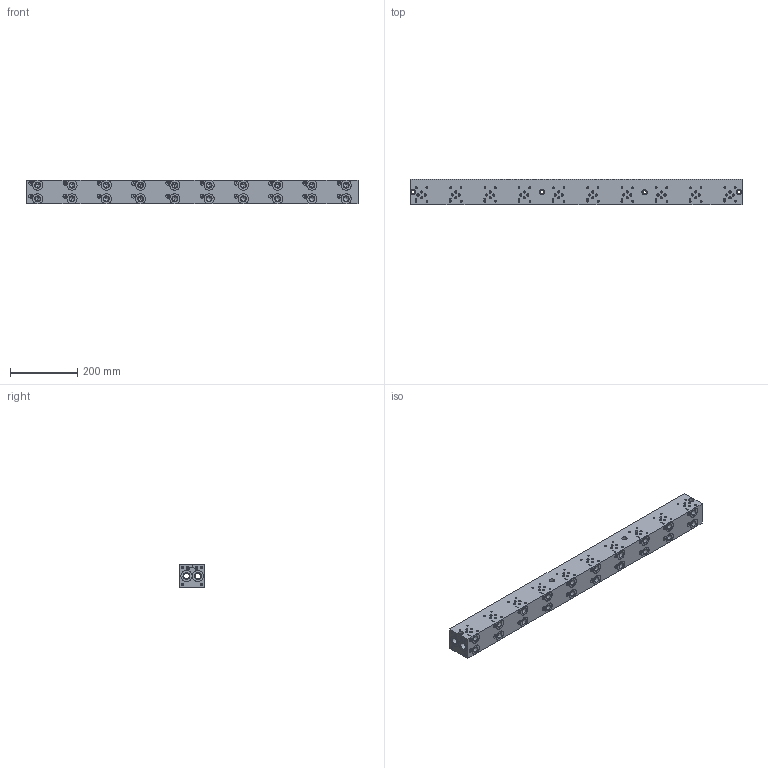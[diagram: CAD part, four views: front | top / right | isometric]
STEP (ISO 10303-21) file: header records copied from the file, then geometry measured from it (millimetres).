
FILE_DESCRIPTION (( 'STEP AP203' ), '1' );
FILE_NAME ('BM-ASP03S4-10-1_Z.STEP', '2015-01-06T15:45:11', ( '' ), ( '' ), 'SwSTEP 2.0', 'SolidWorks 2014', '' );
FILE_SCHEMA (( 'CONFIG_CONTROL_DESIGN' ));
Products named in the file (1): BM-ASP03S4-10-1_Z
Bounding box: 984.25 x 74.93 x 69.85 mm (x, y, z)
Volume: 4529535.6 mm3; surface area: 468406.4 mm2
Topology: 1 solids, 1 shells, 1248 faces, 3194 edges, 1956 vertices
Faces by surface type: cylinder 502, plane 418, cone 226, bspline 102
Entity records: 45139 total; most frequent: CARTESIAN_POINT 16005, ORIENTED_EDGE 5996, DIRECTION 5820, EDGE_CURVE 2998, AXIS2_PLACEMENT_3D 2119, VERTEX_POINT 1956, VECTOR 1582, LINE 1582
